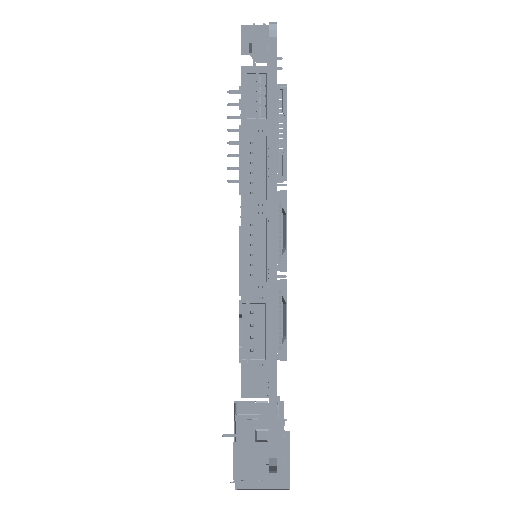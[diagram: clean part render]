
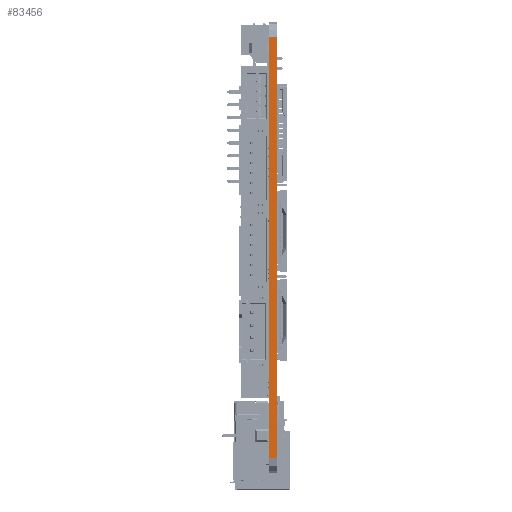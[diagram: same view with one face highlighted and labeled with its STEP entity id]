
A CAD part, left-side view. The second image highlights one B-rep face of the part: STEP entity #83456.
In plain terms, the highlighted planar face has unit normal (-1, 0, 0).
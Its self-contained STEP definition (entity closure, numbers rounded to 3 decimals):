
#25612 = ORIENTED_EDGE ( 'NONE', *, *, #66156, .F. ) ;
#66156 = EDGE_CURVE ( 'NONE', #520568, #512466, #286395, .T. ) ;
#75580 = CARTESIAN_POINT ( 'NONE',  ( 0., 0., -87. ) ) ;
#83456 = ADVANCED_FACE ( 'NONE', ( #193011 ), #242652, .T. ) ;
#89153 = CARTESIAN_POINT ( 'NONE',  ( 0., 0., -87. ) ) ;
#126658 = CARTESIAN_POINT ( 'NONE',  ( 0., -1.6, -3. ) ) ;
#136590 = CARTESIAN_POINT ( 'NONE',  ( 0., -1.6, -87. ) ) ;
#139987 = VERTEX_POINT ( 'NONE', #136590 ) ;
#185501 = CARTESIAN_POINT ( 'NONE',  ( 0., -1.6, -87. ) ) ;
#189875 = DIRECTION ( 'NONE',  ( 0., 0., 1. ) ) ;
#193011 = FACE_OUTER_BOUND ( 'NONE', #570475, .T. ) ;
#201269 = VERTEX_POINT ( 'NONE', #126658 ) ;
#203020 = LINE ( 'NONE', #720827, #649248 ) ;
#207941 = CARTESIAN_POINT ( 'NONE',  ( 0., -1.6, -3. ) ) ;
#229627 = ORIENTED_EDGE ( 'NONE', *, *, #552665, .F. ) ;
#233279 = VECTOR ( 'NONE', #504694, 1000. ) ;
#242652 = PLANE ( 'NONE',  #654299 ) ;
#258220 = VECTOR ( 'NONE', #189875, 1000. ) ;
#286395 = LINE ( 'NONE', #75580, #258220 ) ;
#305331 = VECTOR ( 'NONE', #745880, 1000. ) ;
#319131 = EDGE_CURVE ( 'NONE', #139987, #201269, #203020, .T. ) ;
#386872 = LINE ( 'NONE', #207941, #233279 ) ;
#435271 = DIRECTION ( 'NONE',  ( 0., 0., 1. ) ) ;
#445396 = LINE ( 'NONE', #627911, #305331 ) ;
#504694 = DIRECTION ( 'NONE',  ( 0., 1., 0. ) ) ;
#512466 = VERTEX_POINT ( 'NONE', #647735 ) ;
#520568 = VERTEX_POINT ( 'NONE', #89153 ) ;
#552665 = EDGE_CURVE ( 'NONE', #139987, #520568, #445396, .T. ) ;
#570475 = EDGE_LOOP ( 'NONE', ( #25612, #229627, #579747, #732724 ) ) ;
#579747 = ORIENTED_EDGE ( 'NONE', *, *, #319131, .T. ) ;
#600306 = DIRECTION ( 'NONE',  ( 0., 0., 1. ) ) ;
#612024 = EDGE_CURVE ( 'NONE', #201269, #512466, #386872, .T. ) ;
#627911 = CARTESIAN_POINT ( 'NONE',  ( 0., -1.6, -87. ) ) ;
#646185 = DIRECTION ( 'NONE',  ( -1., 0., 0. ) ) ;
#647735 = CARTESIAN_POINT ( 'NONE',  ( 0., 0., -3. ) ) ;
#649248 = VECTOR ( 'NONE', #435271, 1000. ) ;
#654299 = AXIS2_PLACEMENT_3D ( 'NONE', #185501, #646185, #600306 ) ;
#720827 = CARTESIAN_POINT ( 'NONE',  ( 0., -1.6, -87. ) ) ;
#732724 = ORIENTED_EDGE ( 'NONE', *, *, #612024, .T. ) ;
#745880 = DIRECTION ( 'NONE',  ( 0., 1., 0. ) ) ;
